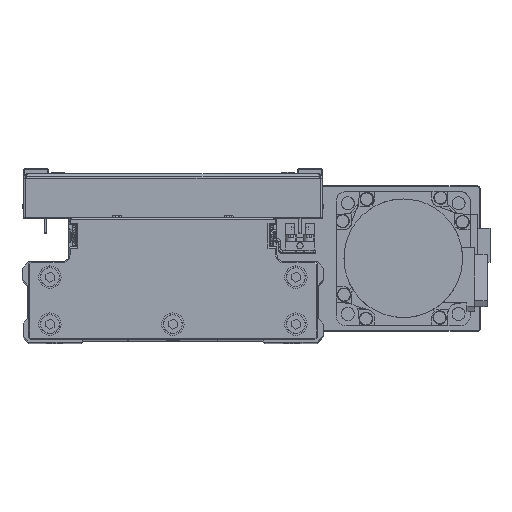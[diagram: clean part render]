
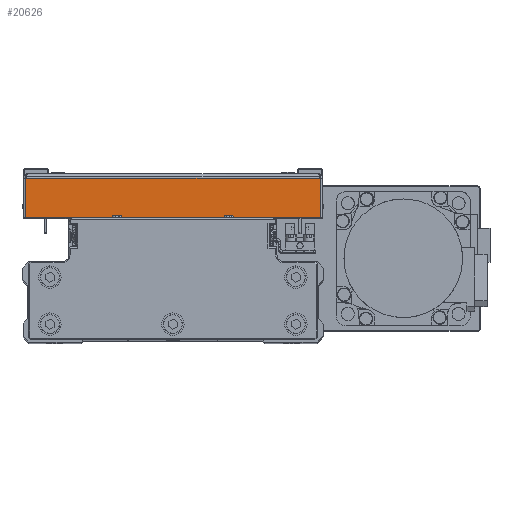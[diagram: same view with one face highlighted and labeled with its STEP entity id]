
A CAD part, top view. The second image highlights one B-rep face of the part: STEP entity #20626.
In plain terms, the highlighted planar face has unit normal (0, 0, 1) as drawn and (1, 0, 0) by its records, which use the part's own axes.
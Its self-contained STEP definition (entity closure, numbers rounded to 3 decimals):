
#510 = ORIENTED_EDGE ( 'NONE', *, *, #36557, .T. ) ;
#887 = EDGE_CURVE ( 'NONE', #11226, #25242, #8795, .T. ) ;
#920 = ORIENTED_EDGE ( 'NONE', *, *, #8041, .F. ) ;
#1747 = DIRECTION ( 'NONE',  ( 0., -1., 0. ) ) ;
#2366 = CARTESIAN_POINT ( 'NONE',  ( 100., 1., 67. ) ) ;
#2477 = LINE ( 'NONE', #15892, #38653 ) ;
#2781 = LINE ( 'NONE', #16213, #41282 ) ;
#3380 = CARTESIAN_POINT ( 'NONE',  ( 100., 18.5, 65.929 ) ) ;
#5049 = PLANE ( 'NONE',  #23434 ) ;
#8041 = EDGE_CURVE ( 'NONE', #27297, #11226, #32588, .T. ) ;
#8795 = LINE ( 'NONE', #22262, #36499 ) ;
#11226 = VERTEX_POINT ( 'NONE', #37056 ) ;
#15782 = DIRECTION ( 'NONE',  ( 0., 0., 1. ) ) ;
#15892 = CARTESIAN_POINT ( 'NONE',  ( 100., 0., -65.929 ) ) ;
#16213 = CARTESIAN_POINT ( 'NONE',  ( 100., 18.5, 0. ) ) ;
#18490 = CARTESIAN_POINT ( 'NONE',  ( 100., 0., 0. ) ) ;
#18733 = ORIENTED_EDGE ( 'NONE', *, *, #887, .F. ) ;
#20494 = VERTEX_POINT ( 'NONE', #34191 ) ;
#20626 = ADVANCED_FACE ( 'NONE', ( #35277 ), #5049, .F. ) ;
#22262 = CARTESIAN_POINT ( 'NONE',  ( 100., 0., 65.929 ) ) ;
#23434 = AXIS2_PLACEMENT_3D ( 'NONE', #18490, #31971, #1747 ) ;
#25242 = VERTEX_POINT ( 'NONE', #3380 ) ;
#26080 = VECTOR ( 'NONE', #15782, 1000. ) ;
#26288 = ORIENTED_EDGE ( 'NONE', *, *, #29460, .T. ) ;
#27297 = VERTEX_POINT ( 'NONE', #38729 ) ;
#29393 = DIRECTION ( 'NONE',  ( 0., 1., 0. ) ) ;
#29460 = EDGE_CURVE ( 'NONE', #27297, #20494, #2477, .T. ) ;
#29695 = DIRECTION ( 'NONE',  ( 0., 0., 1. ) ) ;
#31971 = DIRECTION ( 'NONE',  ( -1., 0., 0. ) ) ;
#32117 = EDGE_LOOP ( 'NONE', ( #920, #26288, #510, #18733 ) ) ;
#32588 = LINE ( 'NONE', #2366, #26080 ) ;
#34191 = CARTESIAN_POINT ( 'NONE',  ( 100., 18.5, -65.929 ) ) ;
#35277 = FACE_OUTER_BOUND ( 'NONE', #32117, .T. ) ;
#35723 = DIRECTION ( 'NONE',  ( 0., 1., 0. ) ) ;
#36499 = VECTOR ( 'NONE', #35723, 1000. ) ;
#36557 = EDGE_CURVE ( 'NONE', #20494, #25242, #2781, .T. ) ;
#37056 = CARTESIAN_POINT ( 'NONE',  ( 100., 1., 65.929 ) ) ;
#38653 = VECTOR ( 'NONE', #29393, 1000. ) ;
#38729 = CARTESIAN_POINT ( 'NONE',  ( 100., 1., -65.929 ) ) ;
#41282 = VECTOR ( 'NONE', #29695, 1000. ) ;
